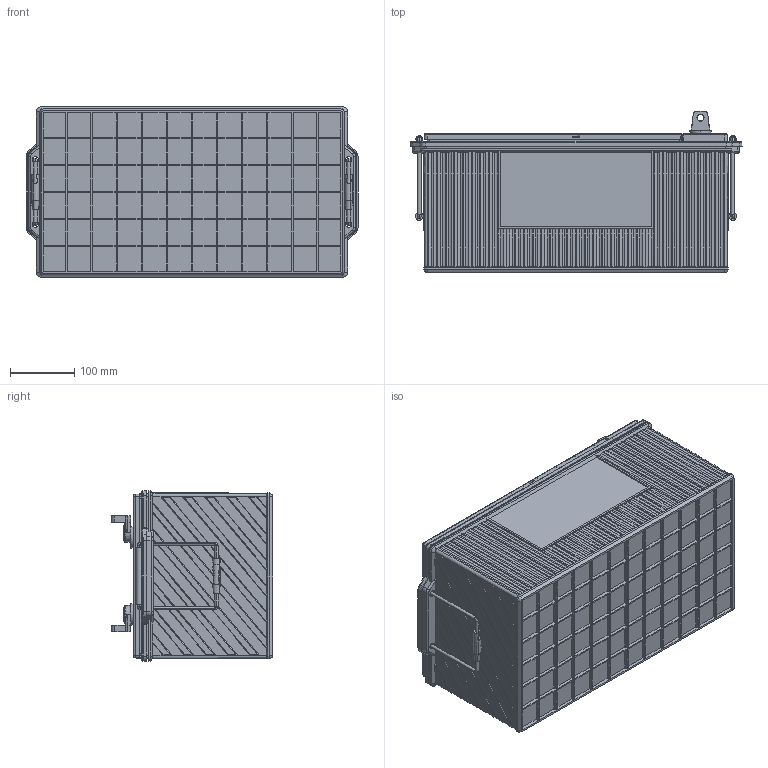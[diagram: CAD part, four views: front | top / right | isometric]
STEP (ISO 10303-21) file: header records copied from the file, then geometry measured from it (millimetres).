
FILE_DESCRIPTION(('CATIA V5 STEP Exchange'),'2;1');
FILE_NAME('E:\图纸\产品三维图stp格式\H5\H5-RZ.stp','2020-04-01T05:15:37+00:00',('none'),('none'),'CATIA Version 5 Release 20 GA (IN-10)','CATIA V5 STEP AP214','none');
FILE_SCHEMA(('AUTOMOTIVE_DESIGN { 1 0 10303 214 1 1 1 1 }'));
Products named in the file (1): 产品1_AllCATPart
Bounding box: 516 x 251 x 265 mm (x, y, z)
Volume: 2943736.6 mm3; surface area: 2060163.7 mm2
Topology: 5 solids, 5 shells, 5825 faces, 15190 edges, 9473 vertices
Faces by surface type: plane 2517, cylinder 1930, cone 428, torus 335, sphere 324, bspline 283, extrusion 8
Entity records: 216730 total; most frequent: CARTESIAN_POINT 85162, ORIENTED_EDGE 30380, DIRECTION 21614, EDGE_CURVE 15190, VERTEX_POINT 9473, VECTOR 8731, LINE 8723, AXIS2_PLACEMENT_3D 7607
